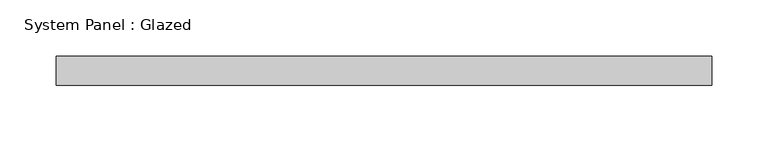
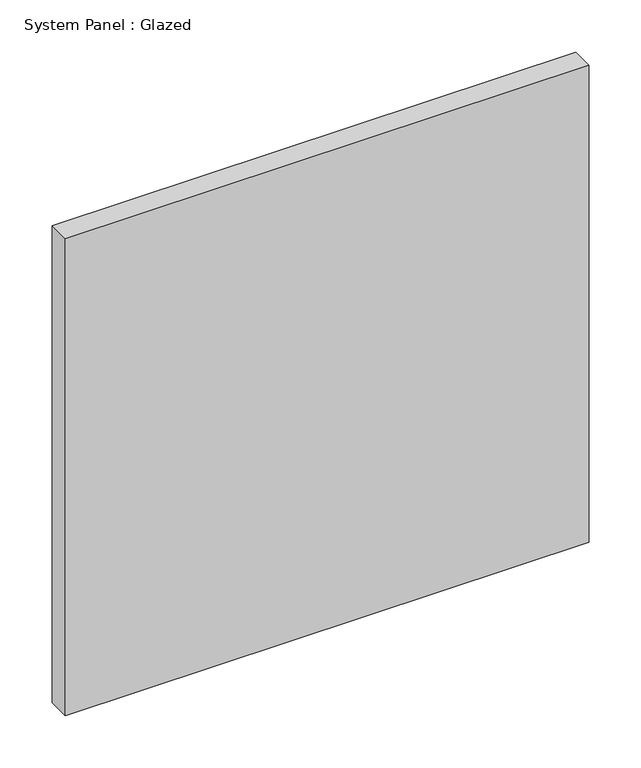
"""IFC4 building model written with IfcOpenShell, lengths in millimetres: plate geometry, System Panel : Glazed."""

import ifcopenshell
import ifcopenshell.guid

model = None  # the IFC model being written
_history = None  # IfcOwnerHistory: only IFC2X3 demands one
_inside = {}  # id of a spatial element -> (the spatial element, [elements in it])
_under = {}  # id of a project, library or spatial element -> (it, [spatial elements below it])
_declared = {}  # id of a project -> (the project, [libraries it declares])
_typed = {}  # id of a type object -> (the type object, [elements of that type])
_made_of = {}  # id of a material, layer set ... -> (it, [elements and type objects made of it])


def new_model(schema):
    """Start an empty IFC model of exactly this schema.

    Asked for "IFC4X3", IfcOpenShell would pick the latest addendum, in which some entities
    have other attributes; the version numbers below select the first issue.
    IFC2X3 requires an IfcOwnerHistory on every rooted entity: one is made here for all.
    """
    global model, _history
    if schema == "IFC4X3":
        model = ifcopenshell.file(schema_version=(4, 3, 0, 0))
    else:
        model = ifcopenshell.file(schema=schema)
    _inside.clear()
    _under.clear()
    _declared.clear()
    _typed.clear()
    _made_of.clear()
    _history = None
    if model.schema == "IFC2X3":
        org = make("IfcOrganization", Name="unknown")
        user = make(
            "IfcPersonAndOrganization",
            ThePerson=make("IfcPerson", FamilyName="unknown"),
            TheOrganization=org,
        )
        app = make(
            "IfcApplication",
            ApplicationDeveloper=org,
            Version="unknown",
            ApplicationFullName="unknown",
            ApplicationIdentifier="unknown",
        )
        _history = make(
            "IfcOwnerHistory",
            OwningUser=user,
            OwningApplication=app,
            ChangeAction="ADDED",
            CreationDate=0,
        )
    return model


def make(cls, **values):
    """One entity of the class cls with the attributes given. An attribute that is None is left unset."""
    return model.create_entity(
        cls, **{name: value for name, value in values.items() if value is not None}
    )


def rooted(cls, **values):
    """An entity with a GlobalId (a new one), such as an element, a storey or a relation."""
    return make(cls, GlobalId=ifcopenshell.guid.new(), OwnerHistory=_history, **values)


def si_unit(unit_type, name, prefix=None):
    """IfcSIUnit, for example si_unit("LENGTHUNIT", "METRE", prefix="MILLI")."""
    return make("IfcSIUnit", UnitType=unit_type, Prefix=prefix, Name=name)


def assignment(units):
    """IfcUnitAssignment: the units of a project."""
    return None if units is None else make("IfcUnitAssignment", Units=units)


def point(xyz):
    """IfcCartesianPoint."""
    return None if xyz is None else make("IfcCartesianPoint", Coordinates=xyz)


def direction(xyz):
    """IfcDirection."""
    return None if xyz is None else make("IfcDirection", DirectionRatios=xyz)


def frame(location, z_axis=None, x_axis=None):
    """IfcAxis2Placement3D, a coordinate frame: its origin and axes. An axis left out is left unset."""
    return make(
        "IfcAxis2Placement3D",
        Location=point(location),
        Axis=direction(z_axis),
        RefDirection=direction(x_axis),
    )


def origin():
    """The frame at (0, 0, 0) with its axes left unset."""
    return frame((0.0, 0.0, 0.0))


def origin_with_axes():
    """The frame at (0, 0, 0) with the z axis (0, 0, 1) and the x axis (1, 0, 0) written out."""
    return frame((0.0, 0.0, 0.0), z_axis=(0.0, 0.0, 1.0), x_axis=(1.0, 0.0, 0.0))


def place(relative_to, where):
    """IfcLocalPlacement: puts the frame where relative to a parent placement (None: the world)."""
    return make(
        "IfcLocalPlacement", PlacementRelTo=relative_to, RelativePlacement=where
    )


def context(
    kind, dimensions, precision=None, world=None, true_north=None, identifier=None
):
    """IfcGeometricRepresentationContext, for example the 3D "Model" context."""
    return make(
        "IfcGeometricRepresentationContext",
        ContextIdentifier=identifier,
        ContextType=kind,
        CoordinateSpaceDimension=dimensions,
        Precision=precision,
        WorldCoordinateSystem=world,
        TrueNorth=true_north,
    )


def project(units=None, contexts=None):
    """IfcProject with its units and contexts."""
    return rooted(
        "IfcProject",
        Name="project",
        RepresentationContexts=contexts,
        UnitsInContext=assignment(units),
    )


def spatial(cls, under=None, at=None, **own):
    """A site, building, storey or space (cls), placed at a placement, below another one or the project."""
    s = rooted(cls, ObjectPlacement=at, **own)
    if under is not None:
        _under.setdefault(under.id(), (under, []))[1].append(s)
    return s


def polyline(points):
    """IfcPolyline through the points."""
    return make("IfcPolyline", Points=[point(p) for p in points])


def outline(outer, holes=None, kind="AREA"):
    """IfcArbitraryClosedProfileDef: a profile drawn as a closed curve; with holes, ...WithVoids."""
    if holes is None:
        return make("IfcArbitraryClosedProfileDef", ProfileType=kind, OuterCurve=outer)
    return make(
        "IfcArbitraryProfileDefWithVoids",
        ProfileType=kind,
        OuterCurve=outer,
        InnerCurves=holes,
    )


def extrude(swept, where, along, depth):
    """IfcExtrudedAreaSolid: the profile swept, set in the frame where, extruded along a direction by depth."""
    return make(
        "IfcExtrudedAreaSolid",
        SweptArea=swept,
        Position=where,
        ExtrudedDirection=direction(along),
        Depth=depth,
    )


def shape(context_of_items, identifier, shape_type, items):
    """IfcShapeRepresentation: the items that make up one representation, for example the "Body"."""
    return make(
        "IfcShapeRepresentation",
        ContextOfItems=context_of_items,
        RepresentationIdentifier=identifier,
        RepresentationType=shape_type,
        Items=items,
    )


def source(mapping_origin, context_of_items, identifier, shape_type, items):
    """IfcRepresentationMap: a shape defined once, which mapped items show again and again."""
    return make(
        "IfcRepresentationMap",
        MappingOrigin=mapping_origin,
        MappedRepresentation=shape(context_of_items, identifier, shape_type, items),
    )


def transform(
    local_origin,
    x_axis=None,
    y_axis=None,
    z_axis=None,
    scale=None,
    scale2=None,
    scale3=None,
    uniform=True,
):
    """IfcCartesianTransformationOperator3D, or its non-uniform kind. x_axis, y_axis, z_axis: its Axis1, 2, 3."""
    if uniform:
        return make(
            "IfcCartesianTransformationOperator3D",
            Axis1=direction(x_axis),
            Axis2=direction(y_axis),
            LocalOrigin=point(local_origin),
            Scale=scale,
            Axis3=direction(z_axis),
        )
    return make(
        "IfcCartesianTransformationOperator3DnonUniform",
        Axis1=direction(x_axis),
        Axis2=direction(y_axis),
        LocalOrigin=point(local_origin),
        Scale=scale,
        Axis3=direction(z_axis),
        Scale2=scale2,
        Scale3=scale3,
    )


def mapped(mapping_source, mapping_target):
    """IfcMappedItem: shows the shape of a source again, moved by a transform."""
    return make(
        "IfcMappedItem", MappingSource=mapping_source, MappingTarget=mapping_target
    )


def made_of(thing, what):
    """Note that an element or type object is made of a material, layer set ...; save() writes the relation."""
    if what is not None:
        _made_of.setdefault(what.id(), (what, []))[1].append(thing)
    return thing


def element(
    cls,
    number,
    at=None,
    inside=None,
    cuts=None,
    type_object=None,
    material=None,
    context=None,
    identifier="Body",
    shape_type=None,
    held_by="IfcProductDefinitionShape",
    body=None,
    shapes=None,
    **own,
):
    """One element of the class cls, such as IfcWall. Its Tag is "e" and its number.

    at: its placement. inside: the storey or other place that contains it. cuts: it is an
    opening in that element (IfcRelVoidsElement). A single representation is given by context,
    identifier, shape_type and body (its items); several are given by shapes. held_by: the class
    of the entity that holds the representations. save() writes the other relations.
    """
    e = rooted(cls, Tag="e%d" % number, ObjectPlacement=at, **own)
    if body is not None:
        shapes = [shape(context, identifier, shape_type, body)]
    if shapes is not None:
        e.Representation = make(held_by, Representations=shapes)
    if inside is not None:
        _inside.setdefault(inside.id(), (inside, []))[1].append(e)
    if cuts is not None:
        rooted(
            "IfcRelVoidsElement", RelatingBuildingElement=cuts, RelatedOpeningElement=e
        )
    if type_object is not None:
        _typed.setdefault(type_object.id(), (type_object, []))[1].append(e)
    return made_of(e, material)


def aggregate(whole, parts):
    """IfcRelAggregates: a whole, such as a stair, and the parts it consists of."""
    return rooted("IfcRelAggregates", RelatingObject=whole, RelatedObjects=parts)


def save(model, path):
    """Write the relations noted so far, then the file.

    IfcRelAggregates (storeys below a building ...), IfcRelContainedInSpatialStructure (elements
    in a storey), IfcRelDefinesByType, IfcRelAssociatesMaterial and IfcRelDeclares: one each for
    every whole, place, type object, material and project.
    """
    for whole, parts in _under.values():
        aggregate(whole, parts)
    for where, things in _inside.values():
        rooted(
            "IfcRelContainedInSpatialStructure",
            RelatedElements=things,
            RelatingStructure=where,
        )
    for kind, things in _typed.values():
        rooted("IfcRelDefinesByType", RelatedObjects=things, RelatingType=kind)
    for what, things in _made_of.values():
        rooted("IfcRelAssociatesMaterial", RelatedObjects=things, RelatingMaterial=what)
    for by, libraries in _declared.values():
        rooted("IfcRelDeclares", RelatingContext=by, RelatedDefinitions=libraries)
    model.write(path)


def system_panel_glazed_95990db4(model_context):
    return source(origin(), model_context, "Body", "SweptSolid", [
        extrude(outline(polyline([(290.2639021, -12.7), (-290.2639021, -12.7), (-290.2639021, 12.7), (290.2639021, 12.7), (290.2639021, -12.7)])), origin_with_axes(), (0.0, 0.0, 1.0), 558.8),
    ])


if __name__ == "__main__":
    model = new_model("IFC4")
    model_context = context("Model", 3, world=origin())
    ifc_project = project(units=[si_unit("LENGTHUNIT", "METRE", prefix="MILLI")], contexts=[model_context])
    site = spatial("IfcSite", under=ifc_project)
    building = spatial("IfcBuilding", under=site)
    placement = place(None, origin())
    system_panel_glazed_shape = system_panel_glazed_95990db4(model_context)
    element("IfcPlate", 1, ObjectType="System Panel : Glazed", at=placement, inside=building, context=model_context, shape_type="MappedRepresentation", body=[
        mapped(system_panel_glazed_shape, transform((0.0, 0.0, 0.0), x_axis=(1.0, 0.0, 0.0), y_axis=(0.0, 1.0, 0.0), z_axis=(0.0, 0.0, 1.0))),
    ])
    save(model, "model.ifc")
